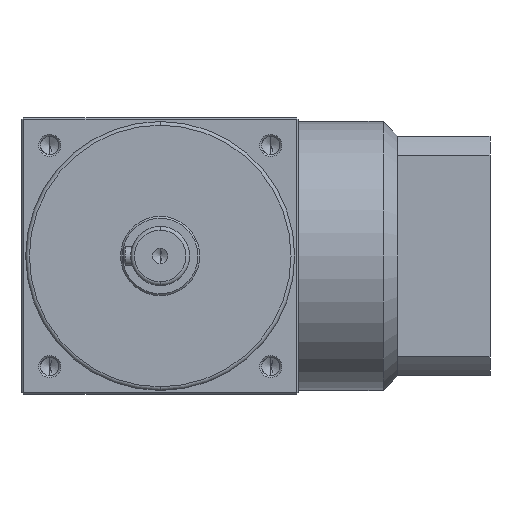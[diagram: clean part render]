
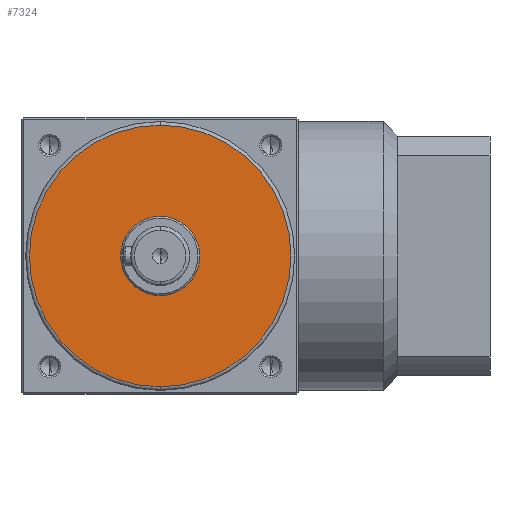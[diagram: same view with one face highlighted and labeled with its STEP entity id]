
A CAD part, left-side view. The second image highlights one B-rep face of the part: STEP entity #7324.
In plain terms, the highlighted planar face has unit normal (-1, 0, 0).
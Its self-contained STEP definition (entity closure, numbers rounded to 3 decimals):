
#424 = DIRECTION ( 'NONE',  ( 0., 0., 1. ) ) ;
#665 = ORIENTED_EDGE ( 'NONE', *, *, #7155, .F. ) ;
#764 = EDGE_CURVE ( 'NONE', #3948, #7421, #9247, .T. ) ;
#921 = EDGE_CURVE ( 'NONE', #7421, #3948, #4565, .T. ) ;
#942 = ORIENTED_EDGE ( 'NONE', *, *, #921, .T. ) ;
#956 = DIRECTION ( 'NONE',  ( 0., 0., 1. ) ) ;
#1070 = EDGE_LOOP ( 'NONE', ( #942, #9396 ) ) ;
#1721 = DIRECTION ( 'NONE',  ( 0., 0., 1. ) ) ;
#2080 = DIRECTION ( 'NONE',  ( -1., 0., 0. ) ) ;
#2700 = CIRCLE ( 'NONE', #7502, 10.75 ) ;
#2800 = AXIS2_PLACEMENT_3D ( 'NONE', #4016, #5412, #9071 ) ;
#2987 = CIRCLE ( 'NONE', #8545, 10.75 ) ;
#3006 = FACE_OUTER_BOUND ( 'NONE', #1070, .T. ) ;
#3240 = FACE_BOUND ( 'NONE', #4742, .T. ) ;
#3735 = CARTESIAN_POINT ( 'NONE',  ( -52., 0., 0. ) ) ;
#3765 = DIRECTION ( 'NONE',  ( -1., 0., 0. ) ) ;
#3948 = VERTEX_POINT ( 'NONE', #5229 ) ;
#4016 = CARTESIAN_POINT ( 'NONE',  ( -52., 0., 0. ) ) ;
#4091 = PLANE ( 'NONE',  #5757 ) ;
#4306 = CARTESIAN_POINT ( 'NONE',  ( -52., 0., 0. ) ) ;
#4565 = CIRCLE ( 'NONE', #2800, 35.5 ) ;
#4580 = EDGE_CURVE ( 'NONE', #5419, #9132, #2700, .T. ) ;
#4742 = EDGE_LOOP ( 'NONE', ( #4920, #665 ) ) ;
#4920 = ORIENTED_EDGE ( 'NONE', *, *, #4580, .F. ) ;
#5229 = CARTESIAN_POINT ( 'NONE',  ( -52., 0., -35.5 ) ) ;
#5412 = DIRECTION ( 'NONE',  ( -1., 0., 0. ) ) ;
#5419 = VERTEX_POINT ( 'NONE', #6003 ) ;
#5500 = CARTESIAN_POINT ( 'NONE',  ( -52., 0., 10.75 ) ) ;
#5699 = DIRECTION ( 'NONE',  ( 0., 0., 1. ) ) ;
#5757 = AXIS2_PLACEMENT_3D ( 'NONE', #6315, #8464, #424 ) ;
#6003 = CARTESIAN_POINT ( 'NONE',  ( -52., 0., -10.75 ) ) ;
#6282 = CARTESIAN_POINT ( 'NONE',  ( -52., 0., 35.5 ) ) ;
#6315 = CARTESIAN_POINT ( 'NONE',  ( -52., 0., 0. ) ) ;
#7155 = EDGE_CURVE ( 'NONE', #9132, #5419, #2987, .T. ) ;
#7236 = AXIS2_PLACEMENT_3D ( 'NONE', #4306, #2080, #5699 ) ;
#7324 = ADVANCED_FACE ( 'NONE', ( #3006, #3240 ), #4091, .T. ) ;
#7421 = VERTEX_POINT ( 'NONE', #6282 ) ;
#7502 = AXIS2_PLACEMENT_3D ( 'NONE', #8228, #9114, #1721 ) ;
#8228 = CARTESIAN_POINT ( 'NONE',  ( -52., 0., 0. ) ) ;
#8464 = DIRECTION ( 'NONE',  ( -1., 0., 0. ) ) ;
#8545 = AXIS2_PLACEMENT_3D ( 'NONE', #3735, #3765, #956 ) ;
#9071 = DIRECTION ( 'NONE',  ( 0., 0., 1. ) ) ;
#9114 = DIRECTION ( 'NONE',  ( -1., 0., 0. ) ) ;
#9132 = VERTEX_POINT ( 'NONE', #5500 ) ;
#9247 = CIRCLE ( 'NONE', #7236, 35.5 ) ;
#9396 = ORIENTED_EDGE ( 'NONE', *, *, #764, .T. ) ;
